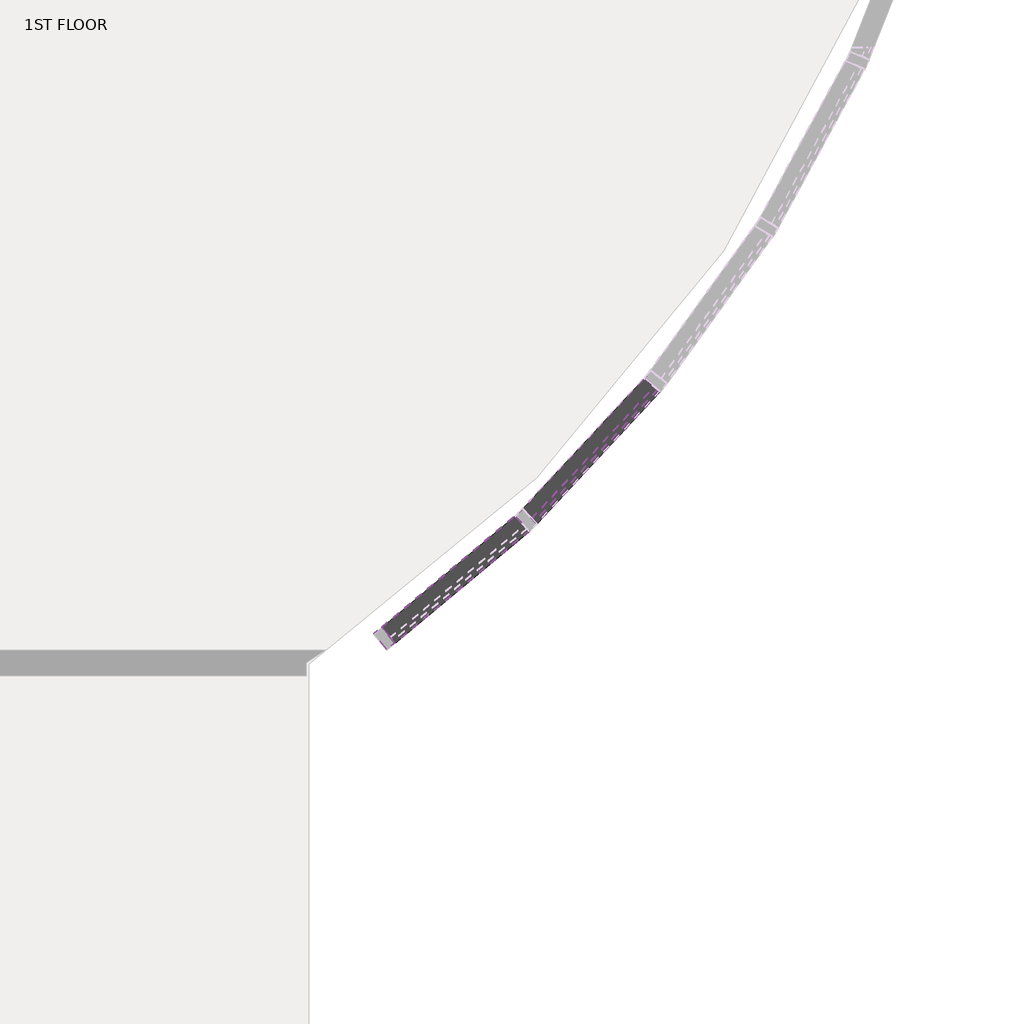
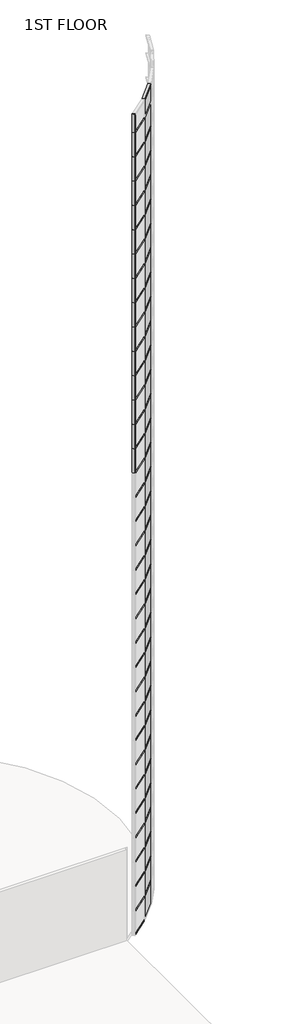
# One storey, part 4 of 17: 82 members, 34 plates.
"""IFC4 building model written with IfcOpenShell, lengths in millimetres."""

from ifc_helpers import new_model, si_unit, origin, place, context, project, spatial, transform, mapped, element, save
from components import member_56cb0dcd, member_5098c466, member_0c249660, member_fec0df91, member_75074519, member_73c23c35, system_panel_glazed_ce2914f7, system_panel_glazed_e049e42f, system_panel_glazed_5ae89cf9

model = new_model("IFC4")

# Units and contexts
model_context = context("Model", 3, world=origin())
ifc_project = project(units=[si_unit("LENGTHUNIT", "METRE", prefix="MILLI")], contexts=[model_context])

# Site, building, storey
site = spatial("IfcSite", under=ifc_project)
building = spatial("IfcBuilding", under=site)
storey = spatial("IfcBuildingStorey", under=building, Name="1ST FLOOR", Elevation=4572.0)

# Members
placement = place(None, origin())
member_shape = member_56cb0dcd(model_context)
element("IfcMember", 1, ObjectType="Rectangular Mullion : 2.5\" x 5\" rectangular", at=placement, inside=storey, context=model_context, shape_type="MappedRepresentation", body=[
    mapped(member_shape, transform((45392.8051979, 10192.8415222, 45720.0), x_axis=(0.0, 0.0, 1.0), y_axis=(-0.7318464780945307, 0.6814695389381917, 0.0), z_axis=(-0.6814695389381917, -0.7318464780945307, 0.0))),
])
member_2_shape = member_5098c466(model_context)
element("IfcMember", 2, ObjectType="Rectangular Mullion : 2.5\" x 5\" rectangular", at=placement, inside=storey, context=model_context, shape_type="MappedRepresentation", body=[
    mapped(member_2_shape, transform((45346.8045255, 10149.2471723, 4572.0), x_axis=(0.0, 0.0, -1.0), y_axis=(-0.6412039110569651, 0.7673705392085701, 0.0), z_axis=(0.7673705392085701, 0.6412039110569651, 0.0))),
])
member_3_shape = member_0c249660(model_context)
element("IfcMember", 3, ObjectType="Rectangular Mullion : 2.5\" x 5\" rectangular", at=placement, inside=storey, context=model_context, shape_type="MappedRepresentation", body=[
    mapped(member_3_shape, transform((45392.8051979, 10192.8415222, 5791.2), x_axis=(0.0, 0.0, 1.0), y_axis=(-0.7318464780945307, 0.6814695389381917, 0.0), z_axis=(-0.6814695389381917, -0.7318464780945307, 0.0))),
])
element("IfcMember", 4, ObjectType="Rectangular Mullion : 2.5\" x 5\" rectangular", at=placement, inside=storey, context=model_context, shape_type="MappedRepresentation", body=[
    mapped(member_3_shape, transform((45392.8051979, 10192.8415222, 7010.4), x_axis=(0.0, 0.0, 1.0), y_axis=(-0.7318464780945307, 0.6814695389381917, 0.0), z_axis=(-0.6814695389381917, -0.7318464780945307, 0.0))),
])
element("IfcMember", 5, ObjectType="Rectangular Mullion : 2.5\" x 5\" rectangular", at=placement, inside=storey, context=model_context, shape_type="MappedRepresentation", body=[
    mapped(member_3_shape, transform((45392.8051979, 10192.8415222, 8229.6), x_axis=(0.0, 0.0, 1.0), y_axis=(-0.7318464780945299, 0.6814695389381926, 0.0), z_axis=(-0.6814695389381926, -0.7318464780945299, 0.0))),
])
element("IfcMember", 6, ObjectType="Rectangular Mullion : 2.5\" x 5\" rectangular", at=placement, inside=storey, context=model_context, shape_type="MappedRepresentation", body=[
    mapped(member_3_shape, transform((45392.8051979, 10192.8415222, 9448.8), x_axis=(0.0, 0.0, 1.0), y_axis=(-0.7318464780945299, 0.6814695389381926, 0.0), z_axis=(-0.6814695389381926, -0.7318464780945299, 0.0))),
])
element("IfcMember", 7, ObjectType="Rectangular Mullion : 2.5\" x 5\" rectangular", at=placement, inside=storey, context=model_context, shape_type="MappedRepresentation", body=[
    mapped(member_3_shape, transform((45392.8051979, 10192.8415222, 10668.0), x_axis=(0.0, 0.0, 1.0), y_axis=(-0.7318464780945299, 0.6814695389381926, 0.0), z_axis=(-0.6814695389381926, -0.7318464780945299, 0.0))),
])
element("IfcMember", 8, ObjectType="Rectangular Mullion : 2.5\" x 5\" rectangular", at=placement, inside=storey, context=model_context, shape_type="MappedRepresentation", body=[
    mapped(member_3_shape, transform((45392.8051979, 10192.8415222, 11887.2), x_axis=(0.0, 0.0, 1.0), y_axis=(-0.7318464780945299, 0.6814695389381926, 0.0), z_axis=(-0.6814695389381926, -0.7318464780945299, 0.0))),
])
element("IfcMember", 9, ObjectType="Rectangular Mullion : 2.5\" x 5\" rectangular", at=placement, inside=storey, context=model_context, shape_type="MappedRepresentation", body=[
    mapped(member_3_shape, transform((45392.8051979, 10192.8415222, 13106.4), x_axis=(0.0, 0.0, 1.0), y_axis=(-0.7318464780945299, 0.6814695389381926, 0.0), z_axis=(-0.6814695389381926, -0.7318464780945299, 0.0))),
])
element("IfcMember", 10, ObjectType="Rectangular Mullion : 2.5\" x 5\" rectangular", at=placement, inside=storey, context=model_context, shape_type="MappedRepresentation", body=[
    mapped(member_3_shape, transform((45392.8051979, 10192.8415222, 14325.6), x_axis=(0.0, 0.0, 1.0), y_axis=(-0.7318464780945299, 0.6814695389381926, 0.0), z_axis=(-0.6814695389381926, -0.7318464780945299, 0.0))),
])
element("IfcMember", 11, ObjectType="Rectangular Mullion : 2.5\" x 5\" rectangular", at=placement, inside=storey, context=model_context, shape_type="MappedRepresentation", body=[
    mapped(member_3_shape, transform((45392.8051979, 10192.8415222, 15544.8), x_axis=(0.0, 0.0, 1.0), y_axis=(-0.7318464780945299, 0.6814695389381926, 0.0), z_axis=(-0.6814695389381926, -0.7318464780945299, 0.0))),
])
element("IfcMember", 12, ObjectType="Rectangular Mullion : 2.5\" x 5\" rectangular", at=placement, inside=storey, context=model_context, shape_type="MappedRepresentation", body=[
    mapped(member_3_shape, transform((45392.8051979, 10192.8415222, 16764.0), x_axis=(0.0, 0.0, 1.0), y_axis=(-0.7318464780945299, 0.6814695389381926, 0.0), z_axis=(-0.6814695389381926, -0.7318464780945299, 0.0))),
])
element("IfcMember", 13, ObjectType="Rectangular Mullion : 2.5\" x 5\" rectangular", at=placement, inside=storey, context=model_context, shape_type="MappedRepresentation", body=[
    mapped(member_3_shape, transform((45392.8051979, 10192.8415222, 17983.2), x_axis=(0.0, 0.0, 1.0), y_axis=(-0.7318464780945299, 0.6814695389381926, 0.0), z_axis=(-0.6814695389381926, -0.7318464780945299, 0.0))),
])
element("IfcMember", 14, ObjectType="Rectangular Mullion : 2.5\" x 5\" rectangular", at=placement, inside=storey, context=model_context, shape_type="MappedRepresentation", body=[
    mapped(member_3_shape, transform((45392.8051979, 10192.8415222, 19202.4), x_axis=(0.0, 0.0, 1.0), y_axis=(-0.7318464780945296, 0.681469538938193, 0.0), z_axis=(-0.681469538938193, -0.7318464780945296, 0.0))),
])
element("IfcMember", 15, ObjectType="Rectangular Mullion : 2.5\" x 5\" rectangular", at=placement, inside=storey, context=model_context, shape_type="MappedRepresentation", body=[
    mapped(member_3_shape, transform((45392.8051979, 10192.8415222, 20421.6), x_axis=(0.0, 0.0, 1.0), y_axis=(-0.7318464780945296, 0.681469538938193, 0.0), z_axis=(-0.681469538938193, -0.7318464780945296, 0.0))),
])
element("IfcMember", 16, ObjectType="Rectangular Mullion : 2.5\" x 5\" rectangular", at=placement, inside=storey, context=model_context, shape_type="MappedRepresentation", body=[
    mapped(member_3_shape, transform((45392.8051979, 10192.8415222, 21640.8), x_axis=(0.0, 0.0, 1.0), y_axis=(-0.7318464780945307, 0.6814695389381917, 0.0), z_axis=(-0.6814695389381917, -0.7318464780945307, 0.0))),
])
element("IfcMember", 17, ObjectType="Rectangular Mullion : 2.5\" x 5\" rectangular", at=placement, inside=storey, context=model_context, shape_type="MappedRepresentation", body=[
    mapped(member_3_shape, transform((45392.8051979, 10192.8415222, 22860.0), x_axis=(0.0, 0.0, 1.0), y_axis=(-0.7318464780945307, 0.6814695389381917, 0.0), z_axis=(-0.6814695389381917, -0.7318464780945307, 0.0))),
])
element("IfcMember", 18, ObjectType="Rectangular Mullion : 2.5\" x 5\" rectangular", at=placement, inside=storey, context=model_context, shape_type="MappedRepresentation", body=[
    mapped(member_3_shape, transform((45392.8051979, 10192.8415222, 24079.2), x_axis=(0.0, 0.0, 1.0), y_axis=(-0.7318464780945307, 0.6814695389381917, 0.0), z_axis=(-0.6814695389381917, -0.7318464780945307, 0.0))),
])
element("IfcMember", 19, ObjectType="Rectangular Mullion : 2.5\" x 5\" rectangular", at=placement, inside=storey, context=model_context, shape_type="MappedRepresentation", body=[
    mapped(member_3_shape, transform((45392.8051979, 10192.8415222, 25298.4), x_axis=(0.0, 0.0, 1.0), y_axis=(-0.7318464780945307, 0.6814695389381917, 0.0), z_axis=(-0.6814695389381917, -0.7318464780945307, 0.0))),
])
element("IfcMember", 20, ObjectType="Rectangular Mullion : 2.5\" x 5\" rectangular", at=placement, inside=storey, context=model_context, shape_type="MappedRepresentation", body=[
    mapped(member_3_shape, transform((45392.8051979, 10192.8415222, 26517.6), x_axis=(0.0, 0.0, 1.0), y_axis=(-0.7318464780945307, 0.6814695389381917, 0.0), z_axis=(-0.6814695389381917, -0.7318464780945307, 0.0))),
])
element("IfcMember", 21, ObjectType="Rectangular Mullion : 2.5\" x 5\" rectangular", at=placement, inside=storey, context=model_context, shape_type="MappedRepresentation", body=[
    mapped(member_3_shape, transform((45392.8051979, 10192.8415222, 27736.8), x_axis=(0.0, 0.0, 1.0), y_axis=(-0.7318464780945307, 0.6814695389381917, 0.0), z_axis=(-0.6814695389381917, -0.7318464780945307, 0.0))),
])
element("IfcMember", 22, ObjectType="Rectangular Mullion : 2.5\" x 5\" rectangular", at=placement, inside=storey, context=model_context, shape_type="MappedRepresentation", body=[
    mapped(member_3_shape, transform((45392.8051979, 10192.8415222, 28956.0), x_axis=(0.0, 0.0, 1.0), y_axis=(-0.7318464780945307, 0.6814695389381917, 0.0), z_axis=(-0.6814695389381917, -0.7318464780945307, 0.0))),
])
element("IfcMember", 23, ObjectType="Rectangular Mullion : 2.5\" x 5\" rectangular", at=placement, inside=storey, context=model_context, shape_type="MappedRepresentation", body=[
    mapped(member_3_shape, transform((45392.8051979, 10192.8415222, 30175.2), x_axis=(0.0, 0.0, 1.0), y_axis=(-0.7318464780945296, 0.681469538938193, 0.0), z_axis=(-0.681469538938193, -0.7318464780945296, 0.0))),
])
element("IfcMember", 24, ObjectType="Rectangular Mullion : 2.5\" x 5\" rectangular", at=placement, inside=storey, context=model_context, shape_type="MappedRepresentation", body=[
    mapped(member_3_shape, transform((45392.8051979, 10192.8415222, 31394.4), x_axis=(0.0, 0.0, 1.0), y_axis=(-0.7318464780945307, 0.6814695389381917, 0.0), z_axis=(-0.6814695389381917, -0.7318464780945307, 0.0))),
])
element("IfcMember", 25, ObjectType="Rectangular Mullion : 2.5\" x 5\" rectangular", at=placement, inside=storey, context=model_context, shape_type="MappedRepresentation", body=[
    mapped(member_3_shape, transform((45392.8051979, 10192.8415222, 32613.6), x_axis=(0.0, 0.0, 1.0), y_axis=(-0.7318464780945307, 0.6814695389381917, 0.0), z_axis=(-0.6814695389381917, -0.7318464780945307, 0.0))),
])
element("IfcMember", 26, ObjectType="Rectangular Mullion : 2.5\" x 5\" rectangular", at=placement, inside=storey, context=model_context, shape_type="MappedRepresentation", body=[
    mapped(member_3_shape, transform((45392.8051979, 10192.8415222, 33832.8), x_axis=(0.0, 0.0, 1.0), y_axis=(-0.7318464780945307, 0.6814695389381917, 0.0), z_axis=(-0.6814695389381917, -0.7318464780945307, 0.0))),
])
element("IfcMember", 27, ObjectType="Rectangular Mullion : 2.5\" x 5\" rectangular", at=placement, inside=storey, context=model_context, shape_type="MappedRepresentation", body=[
    mapped(member_3_shape, transform((45392.8051979, 10192.8415222, 35052.0), x_axis=(0.0, 0.0, 1.0), y_axis=(-0.7318464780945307, 0.6814695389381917, 0.0), z_axis=(-0.6814695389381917, -0.7318464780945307, 0.0))),
])
element("IfcMember", 28, ObjectType="Rectangular Mullion : 2.5\" x 5\" rectangular", at=placement, inside=storey, context=model_context, shape_type="MappedRepresentation", body=[
    mapped(member_3_shape, transform((45392.8051979, 10192.8415222, 36271.2), x_axis=(0.0, 0.0, 1.0), y_axis=(-0.7318464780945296, 0.681469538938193, 0.0), z_axis=(-0.681469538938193, -0.7318464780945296, 0.0))),
])
element("IfcMember", 29, ObjectType="Rectangular Mullion : 2.5\" x 5\" rectangular", at=placement, inside=storey, context=model_context, shape_type="MappedRepresentation", body=[
    mapped(member_3_shape, transform((45392.8051979, 10192.8415222, 37490.4), x_axis=(0.0, 0.0, 1.0), y_axis=(-0.7318464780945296, 0.681469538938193, 0.0), z_axis=(-0.681469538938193, -0.7318464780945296, 0.0))),
])
element("IfcMember", 30, ObjectType="Rectangular Mullion : 2.5\" x 5\" rectangular", at=placement, inside=storey, context=model_context, shape_type="MappedRepresentation", body=[
    mapped(member_3_shape, transform((45392.8051979, 10192.8415222, 38709.6), x_axis=(0.0, 0.0, 1.0), y_axis=(-0.7318464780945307, 0.6814695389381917, 0.0), z_axis=(-0.6814695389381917, -0.7318464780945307, 0.0))),
])
element("IfcMember", 31, ObjectType="Rectangular Mullion : 2.5\" x 5\" rectangular", at=placement, inside=storey, context=model_context, shape_type="MappedRepresentation", body=[
    mapped(member_3_shape, transform((45392.8051979, 10192.8415222, 39928.8), x_axis=(0.0, 0.0, 1.0), y_axis=(-0.7318464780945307, 0.6814695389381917, 0.0), z_axis=(-0.6814695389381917, -0.7318464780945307, 0.0))),
])
element("IfcMember", 32, ObjectType="Rectangular Mullion : 2.5\" x 5\" rectangular", at=placement, inside=storey, context=model_context, shape_type="MappedRepresentation", body=[
    mapped(member_3_shape, transform((45392.8051979, 10192.8415222, 41148.0), x_axis=(0.0, 0.0, 1.0), y_axis=(-0.7318464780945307, 0.6814695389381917, 0.0), z_axis=(-0.6814695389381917, -0.7318464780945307, 0.0))),
])
element("IfcMember", 33, ObjectType="Rectangular Mullion : 2.5\" x 5\" rectangular", at=placement, inside=storey, context=model_context, shape_type="MappedRepresentation", body=[
    mapped(member_3_shape, transform((45392.8051979, 10192.8415222, 42367.2), x_axis=(0.0, 0.0, 1.0), y_axis=(-0.7318464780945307, 0.6814695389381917, 0.0), z_axis=(-0.6814695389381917, -0.7318464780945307, 0.0))),
])
element("IfcMember", 34, ObjectType="Rectangular Mullion : 2.5\" x 5\" rectangular", at=placement, inside=storey, context=model_context, shape_type="MappedRepresentation", body=[
    mapped(member_3_shape, transform((45392.8051979, 10192.8415222, 43586.4), x_axis=(0.0, 0.0, 1.0), y_axis=(-0.7318464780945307, 0.6814695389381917, 0.0), z_axis=(-0.6814695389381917, -0.7318464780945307, 0.0))),
])
member_4_shape = member_fec0df91(model_context)
element("IfcMember", 35, ObjectType="Rectangular Mullion : 2.5\" x 5\" rectangular", at=placement, inside=storey, context=model_context, shape_type="MappedRepresentation", body=[
    mapped(member_4_shape, transform((44528.7242152, 9465.6708976, 5791.2), x_axis=(0.0, 0.0, 1.0), y_axis=(-0.6412039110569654, 0.7673705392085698, 0.0), z_axis=(-0.7673705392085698, -0.6412039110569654, 0.0))),
])
element("IfcMember", 36, ObjectType="Rectangular Mullion : 2.5\" x 5\" rectangular", at=placement, inside=storey, context=model_context, shape_type="MappedRepresentation", body=[
    mapped(member_4_shape, transform((44528.7242152, 9465.6708976, 7010.4), x_axis=(0.0, 0.0, 1.0), y_axis=(-0.6412039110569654, 0.7673705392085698, 0.0), z_axis=(-0.7673705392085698, -0.6412039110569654, 0.0))),
])
element("IfcMember", 37, ObjectType="Rectangular Mullion : 2.5\" x 5\" rectangular", at=placement, inside=storey, context=model_context, shape_type="MappedRepresentation", body=[
    mapped(member_4_shape, transform((44528.7242152, 9465.6708976, 8229.6), x_axis=(0.0, 0.0, 1.0), y_axis=(-0.6412039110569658, 0.7673705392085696, 0.0), z_axis=(-0.7673705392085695, -0.6412039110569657, 0.0))),
])
element("IfcMember", 38, ObjectType="Rectangular Mullion : 2.5\" x 5\" rectangular", at=placement, inside=storey, context=model_context, shape_type="MappedRepresentation", body=[
    mapped(member_4_shape, transform((44528.7242152, 9465.6708976, 9448.8), x_axis=(0.0, 0.0, 1.0), y_axis=(-0.6412039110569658, 0.7673705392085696, 0.0), z_axis=(-0.7673705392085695, -0.6412039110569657, 0.0))),
])
element("IfcMember", 39, ObjectType="Rectangular Mullion : 2.5\" x 5\" rectangular", at=placement, inside=storey, context=model_context, shape_type="MappedRepresentation", body=[
    mapped(member_4_shape, transform((44528.7242152, 9465.6708976, 10668.0), x_axis=(0.0, 0.0, 1.0), y_axis=(-0.6412039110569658, 0.7673705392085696, 0.0), z_axis=(-0.7673705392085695, -0.6412039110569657, 0.0))),
])
element("IfcMember", 40, ObjectType="Rectangular Mullion : 2.5\" x 5\" rectangular", at=placement, inside=storey, context=model_context, shape_type="MappedRepresentation", body=[
    mapped(member_4_shape, transform((44528.7242152, 9465.6708976, 11887.2), x_axis=(0.0, 0.0, 1.0), y_axis=(-0.6412039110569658, 0.7673705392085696, 0.0), z_axis=(-0.7673705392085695, -0.6412039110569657, 0.0))),
])
element("IfcMember", 41, ObjectType="Rectangular Mullion : 2.5\" x 5\" rectangular", at=placement, inside=storey, context=model_context, shape_type="MappedRepresentation", body=[
    mapped(member_4_shape, transform((44528.7242152, 9465.6708976, 13106.4), x_axis=(0.0, 0.0, 1.0), y_axis=(-0.6412039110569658, 0.7673705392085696, 0.0), z_axis=(-0.7673705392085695, -0.6412039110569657, 0.0))),
])
element("IfcMember", 42, ObjectType="Rectangular Mullion : 2.5\" x 5\" rectangular", at=placement, inside=storey, context=model_context, shape_type="MappedRepresentation", body=[
    mapped(member_4_shape, transform((44528.7242152, 9465.6708976, 14325.6), x_axis=(0.0, 0.0, 1.0), y_axis=(-0.6412039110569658, 0.7673705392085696, 0.0), z_axis=(-0.7673705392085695, -0.6412039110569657, 0.0))),
])
element("IfcMember", 43, ObjectType="Rectangular Mullion : 2.5\" x 5\" rectangular", at=placement, inside=storey, context=model_context, shape_type="MappedRepresentation", body=[
    mapped(member_4_shape, transform((44528.7242152, 9465.6708976, 15544.8), x_axis=(0.0, 0.0, 1.0), y_axis=(-0.6412039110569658, 0.7673705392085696, 0.0), z_axis=(-0.7673705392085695, -0.6412039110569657, 0.0))),
])
element("IfcMember", 44, ObjectType="Rectangular Mullion : 2.5\" x 5\" rectangular", at=placement, inside=storey, context=model_context, shape_type="MappedRepresentation", body=[
    mapped(member_4_shape, transform((44528.7242152, 9465.6708976, 16764.0), x_axis=(0.0, 0.0, 1.0), y_axis=(-0.6412039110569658, 0.7673705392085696, 0.0), z_axis=(-0.7673705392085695, -0.6412039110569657, 0.0))),
])
element("IfcMember", 45, ObjectType="Rectangular Mullion : 2.5\" x 5\" rectangular", at=placement, inside=storey, context=model_context, shape_type="MappedRepresentation", body=[
    mapped(member_4_shape, transform((44528.7242152, 9465.6708976, 17983.2), x_axis=(0.0, 0.0, 1.0), y_axis=(-0.6412039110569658, 0.7673705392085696, 0.0), z_axis=(-0.7673705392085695, -0.6412039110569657, 0.0))),
])
element("IfcMember", 46, ObjectType="Rectangular Mullion : 2.5\" x 5\" rectangular", at=placement, inside=storey, context=model_context, shape_type="MappedRepresentation", body=[
    mapped(member_4_shape, transform((44528.7242152, 9465.6708976, 19202.4), x_axis=(0.0, 0.0, 1.0), y_axis=(-0.6412039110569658, 0.7673705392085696, 0.0), z_axis=(-0.7673705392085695, -0.6412039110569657, 0.0))),
])
element("IfcMember", 47, ObjectType="Rectangular Mullion : 2.5\" x 5\" rectangular", at=placement, inside=storey, context=model_context, shape_type="MappedRepresentation", body=[
    mapped(member_4_shape, transform((44528.7242152, 9465.6708976, 20421.6), x_axis=(0.0, 0.0, 1.0), y_axis=(-0.6412039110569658, 0.7673705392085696, 0.0), z_axis=(-0.7673705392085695, -0.6412039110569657, 0.0))),
])
element("IfcMember", 48, ObjectType="Rectangular Mullion : 2.5\" x 5\" rectangular", at=placement, inside=storey, context=model_context, shape_type="MappedRepresentation", body=[
    mapped(member_4_shape, transform((44528.7242152, 9465.6708976, 21640.8), x_axis=(0.0, 0.0, 1.0), y_axis=(-0.6412039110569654, 0.7673705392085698, 0.0), z_axis=(-0.7673705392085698, -0.6412039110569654, 0.0))),
])
element("IfcMember", 49, ObjectType="Rectangular Mullion : 2.5\" x 5\" rectangular", at=placement, inside=storey, context=model_context, shape_type="MappedRepresentation", body=[
    mapped(member_4_shape, transform((44528.7242152, 9465.6708976, 22860.0), x_axis=(0.0, 0.0, 1.0), y_axis=(-0.6412039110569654, 0.7673705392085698, 0.0), z_axis=(-0.7673705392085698, -0.6412039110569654, 0.0))),
])
element("IfcMember", 50, ObjectType="Rectangular Mullion : 2.5\" x 5\" rectangular", at=placement, inside=storey, context=model_context, shape_type="MappedRepresentation", body=[
    mapped(member_4_shape, transform((44528.7242152, 9465.6708976, 24079.2), x_axis=(0.0, 0.0, 1.0), y_axis=(-0.6412039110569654, 0.7673705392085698, 0.0), z_axis=(-0.7673705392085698, -0.6412039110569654, 0.0))),
])
element("IfcMember", 51, ObjectType="Rectangular Mullion : 2.5\" x 5\" rectangular", at=placement, inside=storey, context=model_context, shape_type="MappedRepresentation", body=[
    mapped(member_4_shape, transform((44528.7242152, 9465.6708976, 25298.4), x_axis=(0.0, 0.0, 1.0), y_axis=(-0.6412039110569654, 0.7673705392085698, 0.0), z_axis=(-0.7673705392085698, -0.6412039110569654, 0.0))),
])
element("IfcMember", 52, ObjectType="Rectangular Mullion : 2.5\" x 5\" rectangular", at=placement, inside=storey, context=model_context, shape_type="MappedRepresentation", body=[
    mapped(member_4_shape, transform((44528.7242152, 9465.6708976, 26517.6), x_axis=(0.0, 0.0, 1.0), y_axis=(-0.6412039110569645, 0.7673705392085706, 0.0), z_axis=(-0.7673705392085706, -0.6412039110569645, 0.0))),
])
element("IfcMember", 53, ObjectType="Rectangular Mullion : 2.5\" x 5\" rectangular", at=placement, inside=storey, context=model_context, shape_type="MappedRepresentation", body=[
    mapped(member_4_shape, transform((44528.7242152, 9465.6708976, 27736.8), x_axis=(0.0, 0.0, 1.0), y_axis=(-0.6412039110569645, 0.7673705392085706, 0.0), z_axis=(-0.7673705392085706, -0.6412039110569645, 0.0))),
])
element("IfcMember", 54, ObjectType="Rectangular Mullion : 2.5\" x 5\" rectangular", at=placement, inside=storey, context=model_context, shape_type="MappedRepresentation", body=[
    mapped(member_4_shape, transform((44528.7242152, 9465.6708976, 28956.0), x_axis=(0.0, 0.0, 1.0), y_axis=(-0.6412039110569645, 0.7673705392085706, 0.0), z_axis=(-0.7673705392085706, -0.6412039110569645, 0.0))),
])
element("IfcMember", 55, ObjectType="Rectangular Mullion : 2.5\" x 5\" rectangular", at=placement, inside=storey, context=model_context, shape_type="MappedRepresentation", body=[
    mapped(member_4_shape, transform((44528.7242152, 9465.6708976, 30175.2), x_axis=(0.0, 0.0, 1.0), y_axis=(-0.6412039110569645, 0.7673705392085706, 0.0), z_axis=(-0.7673705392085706, -0.6412039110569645, 0.0))),
])
element("IfcMember", 56, ObjectType="Rectangular Mullion : 2.5\" x 5\" rectangular", at=placement, inside=storey, context=model_context, shape_type="MappedRepresentation", body=[
    mapped(member_4_shape, transform((44528.7242152, 9465.6708976, 31394.4), x_axis=(0.0, 0.0, 1.0), y_axis=(-0.6412039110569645, 0.7673705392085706, 0.0), z_axis=(-0.7673705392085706, -0.6412039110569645, 0.0))),
])
element("IfcMember", 57, ObjectType="Rectangular Mullion : 2.5\" x 5\" rectangular", at=placement, inside=storey, context=model_context, shape_type="MappedRepresentation", body=[
    mapped(member_4_shape, transform((44528.7242152, 9465.6708976, 32613.6), x_axis=(0.0, 0.0, 1.0), y_axis=(-0.6412039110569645, 0.7673705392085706, 0.0), z_axis=(-0.7673705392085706, -0.6412039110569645, 0.0))),
])
element("IfcMember", 58, ObjectType="Rectangular Mullion : 2.5\" x 5\" rectangular", at=placement, inside=storey, context=model_context, shape_type="MappedRepresentation", body=[
    mapped(member_4_shape, transform((44528.7242152, 9465.6708976, 33832.8), x_axis=(0.0, 0.0, 1.0), y_axis=(-0.6412039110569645, 0.7673705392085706, 0.0), z_axis=(-0.7673705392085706, -0.6412039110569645, 0.0))),
])
element("IfcMember", 59, ObjectType="Rectangular Mullion : 2.5\" x 5\" rectangular", at=placement, inside=storey, context=model_context, shape_type="MappedRepresentation", body=[
    mapped(member_4_shape, transform((44528.7242152, 9465.6708976, 35052.0), x_axis=(0.0, 0.0, 1.0), y_axis=(-0.6412039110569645, 0.7673705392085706, 0.0), z_axis=(-0.7673705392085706, -0.6412039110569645, 0.0))),
])
element("IfcMember", 60, ObjectType="Rectangular Mullion : 2.5\" x 5\" rectangular", at=placement, inside=storey, context=model_context, shape_type="MappedRepresentation", body=[
    mapped(member_4_shape, transform((44528.7242152, 9465.6708976, 36271.2), x_axis=(0.0, 0.0, 1.0), y_axis=(-0.6412039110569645, 0.7673705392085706, 0.0), z_axis=(-0.7673705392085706, -0.6412039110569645, 0.0))),
])
element("IfcMember", 61, ObjectType="Rectangular Mullion : 2.5\" x 5\" rectangular", at=placement, inside=storey, context=model_context, shape_type="MappedRepresentation", body=[
    mapped(member_4_shape, transform((44528.7242152, 9465.6708976, 37490.4), x_axis=(0.0, 0.0, 1.0), y_axis=(-0.6412039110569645, 0.7673705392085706, 0.0), z_axis=(-0.7673705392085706, -0.6412039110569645, 0.0))),
])
element("IfcMember", 62, ObjectType="Rectangular Mullion : 2.5\" x 5\" rectangular", at=placement, inside=storey, context=model_context, shape_type="MappedRepresentation", body=[
    mapped(member_4_shape, transform((44528.7242152, 9465.6708976, 38709.6), x_axis=(0.0, 0.0, 1.0), y_axis=(-0.6412039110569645, 0.7673705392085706, 0.0), z_axis=(-0.7673705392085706, -0.6412039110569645, 0.0))),
])
element("IfcMember", 63, ObjectType="Rectangular Mullion : 2.5\" x 5\" rectangular", at=placement, inside=storey, context=model_context, shape_type="MappedRepresentation", body=[
    mapped(member_4_shape, transform((44528.7242152, 9465.6708976, 39928.8), x_axis=(0.0, 0.0, 1.0), y_axis=(-0.6412039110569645, 0.7673705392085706, 0.0), z_axis=(-0.7673705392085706, -0.6412039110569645, 0.0))),
])
element("IfcMember", 64, ObjectType="Rectangular Mullion : 2.5\" x 5\" rectangular", at=placement, inside=storey, context=model_context, shape_type="MappedRepresentation", body=[
    mapped(member_4_shape, transform((44528.7242152, 9465.6708976, 41148.0), x_axis=(0.0, 0.0, 1.0), y_axis=(-0.6412039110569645, 0.7673705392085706, 0.0), z_axis=(-0.7673705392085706, -0.6412039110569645, 0.0))),
])
element("IfcMember", 65, ObjectType="Rectangular Mullion : 2.5\" x 5\" rectangular", at=placement, inside=storey, context=model_context, shape_type="MappedRepresentation", body=[
    mapped(member_4_shape, transform((44528.7242152, 9465.6708976, 42367.2), x_axis=(0.0, 0.0, 1.0), y_axis=(-0.6412039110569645, 0.7673705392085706, 0.0), z_axis=(-0.7673705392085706, -0.6412039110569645, 0.0))),
])
element("IfcMember", 66, ObjectType="Rectangular Mullion : 2.5\" x 5\" rectangular", at=placement, inside=storey, context=model_context, shape_type="MappedRepresentation", body=[
    mapped(member_4_shape, transform((44528.7242152, 9465.6708976, 43586.4), x_axis=(0.0, 0.0, 1.0), y_axis=(-0.6412039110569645, 0.7673705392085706, 0.0), z_axis=(-0.7673705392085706, -0.6412039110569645, 0.0))),
])
element("IfcMember", 67, ObjectType="Rectangular Mullion : 2.5\" x 5\" rectangular", at=placement, inside=storey, context=model_context, shape_type="MappedRepresentation", body=[
    mapped(member_4_shape, transform((44528.7242152, 9465.6708976, 44805.6), x_axis=(0.0, 0.0, 1.0), y_axis=(-0.6412039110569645, 0.7673705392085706, 0.0), z_axis=(-0.7673705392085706, -0.6412039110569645, 0.0))),
])
member_5_shape = member_75074519(model_context)
element("IfcMember", 68, ObjectType="Rectangular Mullion : 2.5\" x 5\" rectangular", at=placement, inside=storey, context=model_context, shape_type="MappedRepresentation", body=[
    mapped(member_5_shape, transform((44479.996186, 9424.9544493, 27736.8), x_axis=(-0.7673705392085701, -0.6412039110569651, 0.0), y_axis=(-0.6412039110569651, 0.7673705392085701, 0.0), z_axis=(0.0, 0.0, -1.0))),
])
element("IfcMember", 69, ObjectType="Rectangular Mullion : 2.5\" x 5\" rectangular", at=placement, inside=storey, context=model_context, shape_type="MappedRepresentation", body=[
    mapped(member_5_shape, transform((44479.996186, 9424.9544493, 28956.0), x_axis=(-0.7673705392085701, -0.6412039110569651, 0.0), y_axis=(-0.6412039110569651, 0.7673705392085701, 0.0), z_axis=(0.0, 0.0, -1.0))),
])
element("IfcMember", 70, ObjectType="Rectangular Mullion : 2.5\" x 5\" rectangular", at=placement, inside=storey, context=model_context, shape_type="MappedRepresentation", body=[
    mapped(member_5_shape, transform((44479.996186, 9424.9544493, 30175.2), x_axis=(-0.7673705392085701, -0.6412039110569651, 0.0), y_axis=(-0.6412039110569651, 0.7673705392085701, 0.0), z_axis=(0.0, 0.0, -1.0))),
])
element("IfcMember", 71, ObjectType="Rectangular Mullion : 2.5\" x 5\" rectangular", at=placement, inside=storey, context=model_context, shape_type="MappedRepresentation", body=[
    mapped(member_5_shape, transform((44479.996186, 9424.9544493, 31394.4), x_axis=(-0.7673705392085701, -0.6412039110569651, 0.0), y_axis=(-0.6412039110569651, 0.7673705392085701, 0.0), z_axis=(0.0, 0.0, -1.0))),
])
element("IfcMember", 72, ObjectType="Rectangular Mullion : 2.5\" x 5\" rectangular", at=placement, inside=storey, context=model_context, shape_type="MappedRepresentation", body=[
    mapped(member_5_shape, transform((44479.996186, 9424.9544493, 32613.6), x_axis=(-0.7673705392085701, -0.6412039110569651, 0.0), y_axis=(-0.6412039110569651, 0.7673705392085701, 0.0), z_axis=(0.0, 0.0, -1.0))),
])
element("IfcMember", 73, ObjectType="Rectangular Mullion : 2.5\" x 5\" rectangular", at=placement, inside=storey, context=model_context, shape_type="MappedRepresentation", body=[
    mapped(member_5_shape, transform((44479.996186, 9424.9544493, 33832.8), x_axis=(-0.7673705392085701, -0.6412039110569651, 0.0), y_axis=(-0.6412039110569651, 0.7673705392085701, 0.0), z_axis=(0.0, 0.0, -1.0))),
])
element("IfcMember", 74, ObjectType="Rectangular Mullion : 2.5\" x 5\" rectangular", at=placement, inside=storey, context=model_context, shape_type="MappedRepresentation", body=[
    mapped(member_5_shape, transform((44479.996186, 9424.9544493, 35052.0), x_axis=(-0.7673705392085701, -0.6412039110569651, 0.0), y_axis=(-0.6412039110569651, 0.7673705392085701, 0.0), z_axis=(0.0, 0.0, -1.0))),
])
element("IfcMember", 75, ObjectType="Rectangular Mullion : 2.5\" x 5\" rectangular", at=placement, inside=storey, context=model_context, shape_type="MappedRepresentation", body=[
    mapped(member_5_shape, transform((44479.996186, 9424.9544493, 36271.2), x_axis=(-0.7673705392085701, -0.6412039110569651, 0.0), y_axis=(-0.6412039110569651, 0.7673705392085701, 0.0), z_axis=(0.0, 0.0, -1.0))),
])
element("IfcMember", 76, ObjectType="Rectangular Mullion : 2.5\" x 5\" rectangular", at=placement, inside=storey, context=model_context, shape_type="MappedRepresentation", body=[
    mapped(member_5_shape, transform((44479.996186, 9424.9544493, 37490.4), x_axis=(-0.7673705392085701, -0.6412039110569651, 0.0), y_axis=(-0.6412039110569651, 0.7673705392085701, 0.0), z_axis=(0.0, 0.0, -1.0))),
])
element("IfcMember", 77, ObjectType="Rectangular Mullion : 2.5\" x 5\" rectangular", at=placement, inside=storey, context=model_context, shape_type="MappedRepresentation", body=[
    mapped(member_5_shape, transform((44479.996186, 9424.9544493, 38709.6), x_axis=(-0.7673705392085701, -0.6412039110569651, 0.0), y_axis=(-0.6412039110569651, 0.7673705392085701, 0.0), z_axis=(0.0, 0.0, -1.0))),
])
element("IfcMember", 78, ObjectType="Rectangular Mullion : 2.5\" x 5\" rectangular", at=placement, inside=storey, context=model_context, shape_type="MappedRepresentation", body=[
    mapped(member_5_shape, transform((44479.996186, 9424.9544493, 39928.8), x_axis=(-0.7673705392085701, -0.6412039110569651, 0.0), y_axis=(-0.6412039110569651, 0.7673705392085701, 0.0), z_axis=(0.0, 0.0, -1.0))),
])
element("IfcMember", 79, ObjectType="Rectangular Mullion : 2.5\" x 5\" rectangular", at=placement, inside=storey, context=model_context, shape_type="MappedRepresentation", body=[
    mapped(member_5_shape, transform((44479.996186, 9424.9544493, 41148.0), x_axis=(-0.7673705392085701, -0.6412039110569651, 0.0), y_axis=(-0.6412039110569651, 0.7673705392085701, 0.0), z_axis=(0.0, 0.0, -1.0))),
])
element("IfcMember", 80, ObjectType="Rectangular Mullion : 2.5\" x 5\" rectangular", at=placement, inside=storey, context=model_context, shape_type="MappedRepresentation", body=[
    mapped(member_5_shape, transform((44479.996186, 9424.9544493, 42367.2), x_axis=(-0.7673705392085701, -0.6412039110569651, 0.0), y_axis=(-0.6412039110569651, 0.7673705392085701, 0.0), z_axis=(0.0, 0.0, -1.0))),
])
element("IfcMember", 81, ObjectType="Rectangular Mullion : 2.5\" x 5\" rectangular", at=placement, inside=storey, context=model_context, shape_type="MappedRepresentation", body=[
    mapped(member_5_shape, transform((44479.996186, 9424.9544493, 43586.4), x_axis=(-0.7673705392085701, -0.6412039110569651, 0.0), y_axis=(-0.6412039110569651, 0.7673705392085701, 0.0), z_axis=(0.0, 0.0, -1.0))),
])
member_6_shape = member_73c23c35(model_context)
element("IfcMember", 82, ObjectType="Rectangular Mullion : 2.5\" x 5\" rectangular", at=placement, inside=storey, context=model_context, shape_type="MappedRepresentation", body=[
    mapped(member_6_shape, transform((44479.996186, 9424.9544493, 44805.6), x_axis=(-0.7673705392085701, -0.6412039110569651, 0.0), y_axis=(-0.6412039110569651, 0.7673705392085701, 0.0), z_axis=(0.0, 0.0, -1.0))),
])

# Plates
system_panel_glazed_shape = system_panel_glazed_ce2914f7(model_context)
element("IfcPlate", 83, ObjectType="System Panel : Glazed", at=placement, inside=storey, context=model_context, shape_type="MappedRepresentation", body=[
    mapped(system_panel_glazed_shape, transform((45766.8749019, 10594.5639466, 4635.5), x_axis=(-0.6814695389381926, -0.7318464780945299, 0.0), y_axis=(0.7318464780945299, -0.6814695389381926, 0.0), z_axis=(0.0, 0.0, 1.0))),
])
system_panel_glazed_2_shape = system_panel_glazed_e049e42f(model_context)
element("IfcPlate", 84, ObjectType="System Panel : Glazed", at=placement, inside=storey, context=model_context, shape_type="MappedRepresentation", body=[
    mapped(system_panel_glazed_2_shape, transform((45766.8749019, 10594.5639466, 5822.95), x_axis=(-0.6814695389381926, -0.7318464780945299, 0.0), y_axis=(0.7318464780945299, -0.6814695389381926, 0.0), z_axis=(0.0, 0.0, 1.0))),
])
element("IfcPlate", 85, ObjectType="System Panel : Glazed", at=placement, inside=storey, context=model_context, shape_type="MappedRepresentation", body=[
    mapped(system_panel_glazed_2_shape, transform((45766.8749019, 10594.5639466, 7042.15), x_axis=(-0.6814695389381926, -0.7318464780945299, 0.0), y_axis=(0.7318464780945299, -0.6814695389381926, 0.0), z_axis=(0.0, 0.0, 1.0))),
])
element("IfcPlate", 86, ObjectType="System Panel : Glazed", at=placement, inside=storey, context=model_context, shape_type="MappedRepresentation", body=[
    mapped(system_panel_glazed_2_shape, transform((45766.8749019, 10594.5639466, 8261.35), x_axis=(-0.6814695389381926, -0.7318464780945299, 0.0), y_axis=(0.7318464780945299, -0.6814695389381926, 0.0), z_axis=(0.0, 0.0, 1.0))),
])
element("IfcPlate", 87, ObjectType="System Panel : Glazed", at=placement, inside=storey, context=model_context, shape_type="MappedRepresentation", body=[
    mapped(system_panel_glazed_2_shape, transform((45766.8749019, 10594.5639466, 9480.55), x_axis=(-0.6814695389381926, -0.7318464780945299, 0.0), y_axis=(0.7318464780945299, -0.6814695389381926, 0.0), z_axis=(0.0, 0.0, 1.0))),
])
element("IfcPlate", 88, ObjectType="System Panel : Glazed", at=placement, inside=storey, context=model_context, shape_type="MappedRepresentation", body=[
    mapped(system_panel_glazed_2_shape, transform((45766.8749019, 10594.5639466, 10699.75), x_axis=(-0.6814695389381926, -0.7318464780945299, 0.0), y_axis=(0.7318464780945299, -0.6814695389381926, 0.0), z_axis=(0.0, 0.0, 1.0))),
])
element("IfcPlate", 89, ObjectType="System Panel : Glazed", at=placement, inside=storey, context=model_context, shape_type="MappedRepresentation", body=[
    mapped(system_panel_glazed_2_shape, transform((45766.8749019, 10594.5639466, 11918.95), x_axis=(-0.6814695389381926, -0.7318464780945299, 0.0), y_axis=(0.7318464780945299, -0.6814695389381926, 0.0), z_axis=(0.0, 0.0, 1.0))),
])
element("IfcPlate", 90, ObjectType="System Panel : Glazed", at=placement, inside=storey, context=model_context, shape_type="MappedRepresentation", body=[
    mapped(system_panel_glazed_2_shape, transform((45766.8749019, 10594.5639466, 13138.15), x_axis=(-0.6814695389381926, -0.7318464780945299, 0.0), y_axis=(0.7318464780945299, -0.6814695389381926, 0.0), z_axis=(0.0, 0.0, 1.0))),
])
element("IfcPlate", 91, ObjectType="System Panel : Glazed", at=placement, inside=storey, context=model_context, shape_type="MappedRepresentation", body=[
    mapped(system_panel_glazed_2_shape, transform((45766.8749019, 10594.5639466, 14357.35), x_axis=(-0.6814695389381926, -0.7318464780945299, 0.0), y_axis=(0.7318464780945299, -0.6814695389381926, 0.0), z_axis=(0.0, 0.0, 1.0))),
])
element("IfcPlate", 92, ObjectType="System Panel : Glazed", at=placement, inside=storey, context=model_context, shape_type="MappedRepresentation", body=[
    mapped(system_panel_glazed_2_shape, transform((45766.8749019, 10594.5639466, 15576.55), x_axis=(-0.6814695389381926, -0.7318464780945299, 0.0), y_axis=(0.7318464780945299, -0.6814695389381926, 0.0), z_axis=(0.0, 0.0, 1.0))),
])
element("IfcPlate", 93, ObjectType="System Panel : Glazed", at=placement, inside=storey, context=model_context, shape_type="MappedRepresentation", body=[
    mapped(system_panel_glazed_2_shape, transform((45766.8749019, 10594.5639466, 16795.75), x_axis=(-0.6814695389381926, -0.7318464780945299, 0.0), y_axis=(0.7318464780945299, -0.6814695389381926, 0.0), z_axis=(0.0, 0.0, 1.0))),
])
element("IfcPlate", 94, ObjectType="System Panel : Glazed", at=placement, inside=storey, context=model_context, shape_type="MappedRepresentation", body=[
    mapped(system_panel_glazed_2_shape, transform((45766.8749019, 10594.5639466, 18014.95), x_axis=(-0.6814695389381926, -0.7318464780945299, 0.0), y_axis=(0.7318464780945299, -0.6814695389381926, 0.0), z_axis=(0.0, 0.0, 1.0))),
])
element("IfcPlate", 95, ObjectType="System Panel : Glazed", at=placement, inside=storey, context=model_context, shape_type="MappedRepresentation", body=[
    mapped(system_panel_glazed_2_shape, transform((45766.8749019, 10594.5639466, 19234.15), x_axis=(-0.6814695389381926, -0.7318464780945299, 0.0), y_axis=(0.7318464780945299, -0.6814695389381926, 0.0), z_axis=(0.0, 0.0, 1.0))),
])
element("IfcPlate", 96, ObjectType="System Panel : Glazed", at=placement, inside=storey, context=model_context, shape_type="MappedRepresentation", body=[
    mapped(system_panel_glazed_2_shape, transform((45766.8749019, 10594.5639466, 20453.35), x_axis=(-0.6814695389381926, -0.7318464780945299, 0.0), y_axis=(0.7318464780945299, -0.6814695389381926, 0.0), z_axis=(0.0, 0.0, 1.0))),
])
element("IfcPlate", 97, ObjectType="System Panel : Glazed", at=placement, inside=storey, context=model_context, shape_type="MappedRepresentation", body=[
    mapped(system_panel_glazed_2_shape, transform((45766.8749019, 10594.5639466, 21672.55), x_axis=(-0.6814695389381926, -0.7318464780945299, 0.0), y_axis=(0.7318464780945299, -0.6814695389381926, 0.0), z_axis=(0.0, 0.0, 1.0))),
])
element("IfcPlate", 98, ObjectType="System Panel : Glazed", at=placement, inside=storey, context=model_context, shape_type="MappedRepresentation", body=[
    mapped(system_panel_glazed_2_shape, transform((45766.8749019, 10594.5639466, 22891.75), x_axis=(-0.6814695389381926, -0.7318464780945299, 0.0), y_axis=(0.7318464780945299, -0.6814695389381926, 0.0), z_axis=(0.0, 0.0, 1.0))),
])
element("IfcPlate", 99, ObjectType="System Panel : Glazed", at=placement, inside=storey, context=model_context, shape_type="MappedRepresentation", body=[
    mapped(system_panel_glazed_2_shape, transform((45766.8749019, 10594.5639466, 24110.95), x_axis=(-0.6814695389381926, -0.7318464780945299, 0.0), y_axis=(0.7318464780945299, -0.6814695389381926, 0.0), z_axis=(0.0, 0.0, 1.0))),
])
element("IfcPlate", 100, ObjectType="System Panel : Glazed", at=placement, inside=storey, context=model_context, shape_type="MappedRepresentation", body=[
    mapped(system_panel_glazed_2_shape, transform((45766.8749019, 10594.5639466, 25330.15), x_axis=(-0.6814695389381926, -0.7318464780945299, 0.0), y_axis=(0.7318464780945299, -0.6814695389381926, 0.0), z_axis=(0.0, 0.0, 1.0))),
])
element("IfcPlate", 101, ObjectType="System Panel : Glazed", at=placement, inside=storey, context=model_context, shape_type="MappedRepresentation", body=[
    mapped(system_panel_glazed_2_shape, transform((45766.8749019, 10594.5639466, 26549.35), x_axis=(-0.6814695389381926, -0.7318464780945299, 0.0), y_axis=(0.7318464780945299, -0.6814695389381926, 0.0), z_axis=(0.0, 0.0, 1.0))),
])
element("IfcPlate", 102, ObjectType="System Panel : Glazed", at=placement, inside=storey, context=model_context, shape_type="MappedRepresentation", body=[
    mapped(system_panel_glazed_2_shape, transform((45766.8749019, 10594.5639466, 27768.55), x_axis=(-0.6814695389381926, -0.7318464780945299, 0.0), y_axis=(0.7318464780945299, -0.6814695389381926, 0.0), z_axis=(0.0, 0.0, 1.0))),
])
element("IfcPlate", 103, ObjectType="System Panel : Glazed", at=placement, inside=storey, context=model_context, shape_type="MappedRepresentation", body=[
    mapped(system_panel_glazed_2_shape, transform((45766.8749019, 10594.5639466, 28987.75), x_axis=(-0.6814695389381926, -0.7318464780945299, 0.0), y_axis=(0.7318464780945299, -0.6814695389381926, 0.0), z_axis=(0.0, 0.0, 1.0))),
])
element("IfcPlate", 104, ObjectType="System Panel : Glazed", at=placement, inside=storey, context=model_context, shape_type="MappedRepresentation", body=[
    mapped(system_panel_glazed_2_shape, transform((45766.8749019, 10594.5639466, 30206.95), x_axis=(-0.6814695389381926, -0.7318464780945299, 0.0), y_axis=(0.7318464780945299, -0.6814695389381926, 0.0), z_axis=(0.0, 0.0, 1.0))),
])
element("IfcPlate", 105, ObjectType="System Panel : Glazed", at=placement, inside=storey, context=model_context, shape_type="MappedRepresentation", body=[
    mapped(system_panel_glazed_2_shape, transform((45766.8749019, 10594.5639466, 31426.15), x_axis=(-0.6814695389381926, -0.7318464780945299, 0.0), y_axis=(0.7318464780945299, -0.6814695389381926, 0.0), z_axis=(0.0, 0.0, 1.0))),
])
element("IfcPlate", 106, ObjectType="System Panel : Glazed", at=placement, inside=storey, context=model_context, shape_type="MappedRepresentation", body=[
    mapped(system_panel_glazed_2_shape, transform((45766.8749019, 10594.5639466, 32645.35), x_axis=(-0.6814695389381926, -0.7318464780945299, 0.0), y_axis=(0.7318464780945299, -0.6814695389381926, 0.0), z_axis=(0.0, 0.0, 1.0))),
])
element("IfcPlate", 107, ObjectType="System Panel : Glazed", at=placement, inside=storey, context=model_context, shape_type="MappedRepresentation", body=[
    mapped(system_panel_glazed_2_shape, transform((45766.8749019, 10594.5639466, 33864.55), x_axis=(-0.6814695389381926, -0.7318464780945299, 0.0), y_axis=(0.7318464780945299, -0.6814695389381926, 0.0), z_axis=(0.0, 0.0, 1.0))),
])
element("IfcPlate", 108, ObjectType="System Panel : Glazed", at=placement, inside=storey, context=model_context, shape_type="MappedRepresentation", body=[
    mapped(system_panel_glazed_2_shape, transform((45766.8749019, 10594.5639466, 35083.75), x_axis=(-0.6814695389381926, -0.7318464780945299, 0.0), y_axis=(0.7318464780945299, -0.6814695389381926, 0.0), z_axis=(0.0, 0.0, 1.0))),
])
element("IfcPlate", 109, ObjectType="System Panel : Glazed", at=placement, inside=storey, context=model_context, shape_type="MappedRepresentation", body=[
    mapped(system_panel_glazed_2_shape, transform((45766.8749019, 10594.5639466, 36302.95), x_axis=(-0.6814695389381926, -0.7318464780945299, 0.0), y_axis=(0.7318464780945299, -0.6814695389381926, 0.0), z_axis=(0.0, 0.0, 1.0))),
])
element("IfcPlate", 110, ObjectType="System Panel : Glazed", at=placement, inside=storey, context=model_context, shape_type="MappedRepresentation", body=[
    mapped(system_panel_glazed_2_shape, transform((45766.8749019, 10594.5639466, 37522.15), x_axis=(-0.6814695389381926, -0.7318464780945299, 0.0), y_axis=(0.7318464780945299, -0.6814695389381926, 0.0), z_axis=(0.0, 0.0, 1.0))),
])
element("IfcPlate", 111, ObjectType="System Panel : Glazed", at=placement, inside=storey, context=model_context, shape_type="MappedRepresentation", body=[
    mapped(system_panel_glazed_2_shape, transform((45766.8749019, 10594.5639466, 38741.35), x_axis=(-0.6814695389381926, -0.7318464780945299, 0.0), y_axis=(0.7318464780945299, -0.6814695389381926, 0.0), z_axis=(0.0, 0.0, 1.0))),
])
element("IfcPlate", 112, ObjectType="System Panel : Glazed", at=placement, inside=storey, context=model_context, shape_type="MappedRepresentation", body=[
    mapped(system_panel_glazed_2_shape, transform((45766.8749019, 10594.5639466, 39960.55), x_axis=(-0.6814695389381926, -0.7318464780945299, 0.0), y_axis=(0.7318464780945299, -0.6814695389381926, 0.0), z_axis=(0.0, 0.0, 1.0))),
])
element("IfcPlate", 113, ObjectType="System Panel : Glazed", at=placement, inside=storey, context=model_context, shape_type="MappedRepresentation", body=[
    mapped(system_panel_glazed_2_shape, transform((45766.8749019, 10594.5639466, 41179.75), x_axis=(-0.6814695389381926, -0.7318464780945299, 0.0), y_axis=(0.7318464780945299, -0.6814695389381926, 0.0), z_axis=(0.0, 0.0, 1.0))),
])
element("IfcPlate", 114, ObjectType="System Panel : Glazed", at=placement, inside=storey, context=model_context, shape_type="MappedRepresentation", body=[
    mapped(system_panel_glazed_2_shape, transform((45766.8749019, 10594.5639466, 42398.95), x_axis=(-0.6814695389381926, -0.7318464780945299, 0.0), y_axis=(0.7318464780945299, -0.6814695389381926, 0.0), z_axis=(0.0, 0.0, 1.0))),
])
element("IfcPlate", 115, ObjectType="System Panel : Glazed", at=placement, inside=storey, context=model_context, shape_type="MappedRepresentation", body=[
    mapped(system_panel_glazed_2_shape, transform((45766.8749019, 10594.5639466, 43618.15), x_axis=(-0.6814695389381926, -0.7318464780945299, 0.0), y_axis=(0.7318464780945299, -0.6814695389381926, 0.0), z_axis=(0.0, 0.0, 1.0))),
])
system_panel_glazed_3_shape = system_panel_glazed_5ae89cf9(model_context)
element("IfcPlate", 116, ObjectType="System Panel : Glazed", at=placement, inside=storey, context=model_context, shape_type="MappedRepresentation", body=[
    mapped(system_panel_glazed_3_shape, transform((45766.8749019, 10594.5639466, 44837.35), x_axis=(-0.6814695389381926, -0.7318464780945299, 0.0), y_axis=(0.7318464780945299, -0.6814695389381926, 0.0), z_axis=(0.0, 0.0, 1.0))),
])

save(model, "model.ifc")
